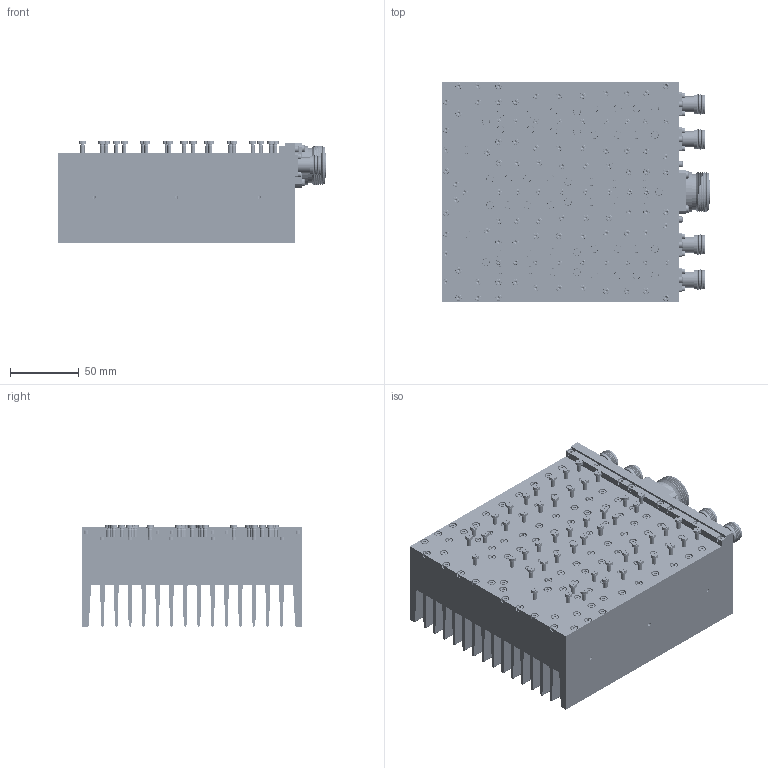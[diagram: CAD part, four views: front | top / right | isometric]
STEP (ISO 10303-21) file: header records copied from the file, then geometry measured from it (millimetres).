
FILE_DESCRIPTION(/* description */ ('Unknown'),/* implementation_level */ '2;1');
FILE_NAME(/* name */ 'DETI_MICROWAVE_MULTI_OCTAVE_BROADBAND_COMBINER _800297_STEP',/* time_stamp */ '2022-03-31T11:23:47+02:00',/* author */ ('Unknown'),/* organization */ ('Unknown'),/* preprocessor_version */ 'ST-DEVELOPER v18.1',/* originating_system */ 'Solid Edge',/* authorisation */ 'Unknown');
FILE_SCHEMA (('AUTOMOTIVE_DESIGN {1 0 10303 214 3 1 1}'));
Products named in the file (1): asm rendu 3D2
Bounding box: 194.2 x 160 x 73.5 mm (x, y, z)
Volume: 1277187 mm3; surface area: 419584.7 mm2
Topology: 193 solids, 197 shells, 3877 faces, 8741 edges, 5658 vertices
Faces by surface type: plane 2036, cylinder 874, cone 646, torus 302, bspline 15, sphere 4
Full cylindrical faces by diameter (mm): 0.6 x4, 0.917 x1, 1.27 x8, 2 x42, 2.013 x22, 2.2 x27, 2.459 x73, 2.5 x83, 2.693 x53, 2.7 x83, 3 x59, 3.2 x25, 3.3 x4, 3.46 x1, 3.5 x4, 3.8 x42, 4.1 x4, 4.5 x83, 4.6 x1, 5 x24, 5.6 x1, 6 x63, 6.7 x1, 6.9 x1, 6.94 x1, 7 x2, 7.6 x4, 8.61 x4, 11.4 x4, 12.4 x5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
Entity records: 105923 total; most frequent: CARTESIAN_POINT 20822, DIRECTION 15914, ORIENTED_EDGE 13010, AXIS2_PLACEMENT_3D 6694, FACE_BOUND 6512, EDGE_CURVE 6505, EDGE_LOOP 6384, VERTEX_POINT 5225
